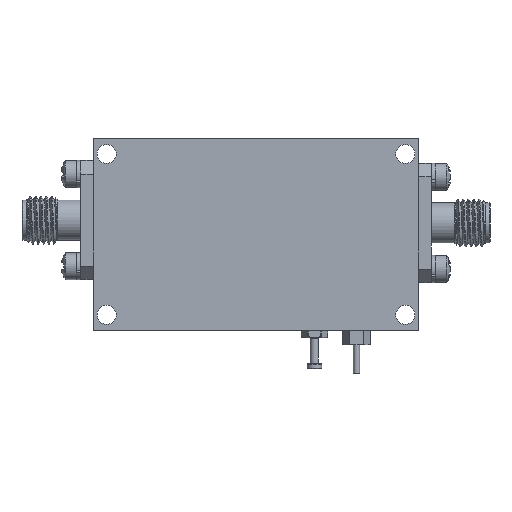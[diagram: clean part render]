
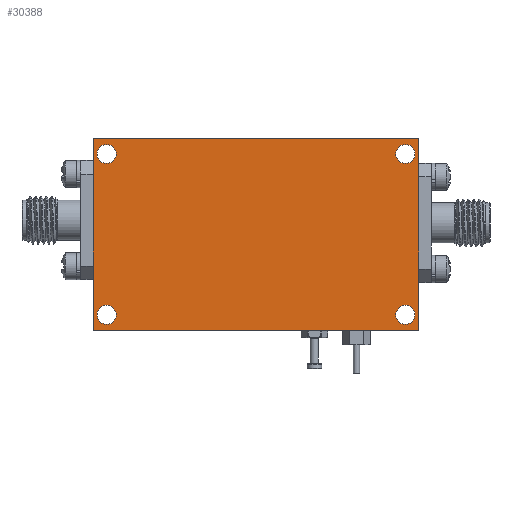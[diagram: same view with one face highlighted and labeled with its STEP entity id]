
A CAD part, front view. The second image highlights one B-rep face of the part: STEP entity #30388.
In plain terms, the highlighted planar face has unit normal (0, -1, 0).
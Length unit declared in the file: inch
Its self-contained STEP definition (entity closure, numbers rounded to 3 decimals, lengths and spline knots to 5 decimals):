
#26 = VERTEX_POINT ( 'NONE', #14200 ) ;
#727 = CARTESIAN_POINT ( 'NONE',  ( 1.63, 0., -0.96975 ) ) ;
#913 = AXIS2_PLACEMENT_3D ( 'NONE', #4518, #43934, #43243 ) ;
#1999 = VECTOR ( 'NONE', #41139, 39.37008 ) ;
#2035 = ORIENTED_EDGE ( 'NONE', *, *, #27777, .F. ) ;
#2200 = LINE ( 'NONE', #16363, #25045 ) ;
#3481 = EDGE_LOOP ( 'NONE', ( #4720 ) ) ;
#3842 = EDGE_LOOP ( 'NONE', ( #4203 ) ) ;
#4203 = ORIENTED_EDGE ( 'NONE', *, *, #24619, .F. ) ;
#4518 = CARTESIAN_POINT ( 'NONE',  ( 1.63, 0., -0.08 ) ) ;
#4720 = ORIENTED_EDGE ( 'NONE', *, *, #9327, .F. ) ;
#4969 = EDGE_CURVE ( 'NONE', #27731, #14514, #16499, .T. ) ;
#5096 = CIRCLE ( 'NONE', #35423, 0.04975 ) ;
#5368 = FACE_BOUND ( 'NONE', #42646, .T. ) ;
#5590 = FACE_BOUND ( 'NONE', #3481, .T. ) ;
#7005 = ORIENTED_EDGE ( 'NONE', *, *, #10663, .F. ) ;
#7461 = VERTEX_POINT ( 'NONE', #42941 ) ;
#7522 = CARTESIAN_POINT ( 'NONE',  ( 1.63, 0., -0.92 ) ) ;
#8395 = FACE_OUTER_BOUND ( 'NONE', #45609, .T. ) ;
#8677 = DIRECTION ( 'NONE',  ( 0., -1., 0. ) ) ;
#9327 = EDGE_CURVE ( 'NONE', #7461, #7461, #20931, .T. ) ;
#9742 = DIRECTION ( 'NONE',  ( -1., 0., 0. ) ) ;
#9930 = CARTESIAN_POINT ( 'NONE',  ( 0., 0., 0. ) ) ;
#10036 = CARTESIAN_POINT ( 'NONE',  ( 1.7, 0., 0. ) ) ;
#10603 = VERTEX_POINT ( 'NONE', #9930 ) ;
#10663 = EDGE_CURVE ( 'NONE', #10603, #44937, #19619, .T. ) ;
#10715 = EDGE_CURVE ( 'NONE', #14514, #10603, #2200, .T. ) ;
#10915 = EDGE_CURVE ( 'NONE', #32676, #32676, #39858, .T. ) ;
#12170 = CIRCLE ( 'NONE', #41057, 0.04975 ) ;
#12630 = CARTESIAN_POINT ( 'NONE',  ( 0., 0., 0. ) ) ;
#14200 = CARTESIAN_POINT ( 'NONE',  ( 0.07, 0., -0.96975 ) ) ;
#14514 = VERTEX_POINT ( 'NONE', #26387 ) ;
#14705 = VECTOR ( 'NONE', #33483, 39.37008 ) ;
#15594 = ORIENTED_EDGE ( 'NONE', *, *, #20516, .F. ) ;
#16363 = CARTESIAN_POINT ( 'NONE',  ( 0., 0., 0. ) ) ;
#16499 = LINE ( 'NONE', #20427, #43784 ) ;
#17208 = DIRECTION ( 'NONE',  ( 0., 0., -1. ) ) ;
#17495 = ORIENTED_EDGE ( 'NONE', *, *, #10715, .F. ) ;
#17588 = DIRECTION ( 'NONE',  ( 0., 0., -1. ) ) ;
#17725 = DIRECTION ( 'NONE',  ( 0., -1., 0. ) ) ;
#19529 = FACE_BOUND ( 'NONE', #24333, .T. ) ;
#19619 = LINE ( 'NONE', #12630, #14705 ) ;
#19893 = AXIS2_PLACEMENT_3D ( 'NONE', #7522, #17725, #21438 ) ;
#20241 = CARTESIAN_POINT ( 'NONE',  ( 0.07, 0., -0.08 ) ) ;
#20427 = CARTESIAN_POINT ( 'NONE',  ( 0., 0., -1. ) ) ;
#20516 = EDGE_CURVE ( 'NONE', #26, #26, #5096, .T. ) ;
#20931 = CIRCLE ( 'NONE', #913, 0.04975 ) ;
#21438 = DIRECTION ( 'NONE',  ( 0., 0., -1. ) ) ;
#23219 = FACE_BOUND ( 'NONE', #3842, .T. ) ;
#24333 = EDGE_LOOP ( 'NONE', ( #15594 ) ) ;
#24447 = AXIS2_PLACEMENT_3D ( 'NONE', #26068, #8677, #40217 ) ;
#24619 = EDGE_CURVE ( 'NONE', #32444, #32444, #12170, .T. ) ;
#25045 = VECTOR ( 'NONE', #41616, 39.37008 ) ;
#26068 = CARTESIAN_POINT ( 'NONE',  ( 0., 0., 0. ) ) ;
#26387 = CARTESIAN_POINT ( 'NONE',  ( 0., 0., -1. ) ) ;
#27731 = VERTEX_POINT ( 'NONE', #36927 ) ;
#27777 = EDGE_CURVE ( 'NONE', #44937, #27731, #37840, .T. ) ;
#30388 = ADVANCED_FACE ( 'NONE', ( #5368, #19529, #23219, #5590, #8395 ), #33205, .T. ) ;
#31452 = DIRECTION ( 'NONE',  ( 0., -1., 0. ) ) ;
#32444 = VERTEX_POINT ( 'NONE', #35484 ) ;
#32676 = VERTEX_POINT ( 'NONE', #727 ) ;
#33205 = PLANE ( 'NONE',  #24447 ) ;
#33483 = DIRECTION ( 'NONE',  ( 1., 0., 0. ) ) ;
#34368 = CARTESIAN_POINT ( 'NONE',  ( 1.7, 0., 0. ) ) ;
#35423 = AXIS2_PLACEMENT_3D ( 'NONE', #42400, #31452, #17588 ) ;
#35484 = CARTESIAN_POINT ( 'NONE',  ( 0.07, 0., -0.12975 ) ) ;
#36927 = CARTESIAN_POINT ( 'NONE',  ( 1.7, 0., -1. ) ) ;
#37840 = LINE ( 'NONE', #34368, #1999 ) ;
#39858 = CIRCLE ( 'NONE', #19893, 0.04975 ) ;
#39924 = ORIENTED_EDGE ( 'NONE', *, *, #4969, .F. ) ;
#40217 = DIRECTION ( 'NONE',  ( 0., 0., -1. ) ) ;
#41057 = AXIS2_PLACEMENT_3D ( 'NONE', #20241, #44590, #17208 ) ;
#41139 = DIRECTION ( 'NONE',  ( 0., 0., -1. ) ) ;
#41616 = DIRECTION ( 'NONE',  ( 0., 0., 1. ) ) ;
#42385 = ORIENTED_EDGE ( 'NONE', *, *, #10915, .F. ) ;
#42400 = CARTESIAN_POINT ( 'NONE',  ( 0.07, 0., -0.92 ) ) ;
#42646 = EDGE_LOOP ( 'NONE', ( #42385 ) ) ;
#42941 = CARTESIAN_POINT ( 'NONE',  ( 1.63, 0., -0.12975 ) ) ;
#43243 = DIRECTION ( 'NONE',  ( 0., 0., -1. ) ) ;
#43784 = VECTOR ( 'NONE', #9742, 39.37008 ) ;
#43934 = DIRECTION ( 'NONE',  ( 0., -1., 0. ) ) ;
#44590 = DIRECTION ( 'NONE',  ( 0., -1., 0. ) ) ;
#44937 = VERTEX_POINT ( 'NONE', #10036 ) ;
#45609 = EDGE_LOOP ( 'NONE', ( #17495, #39924, #2035, #7005 ) ) ;
